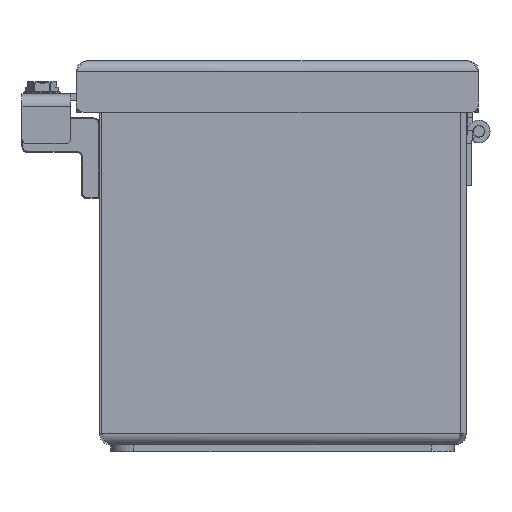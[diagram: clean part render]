
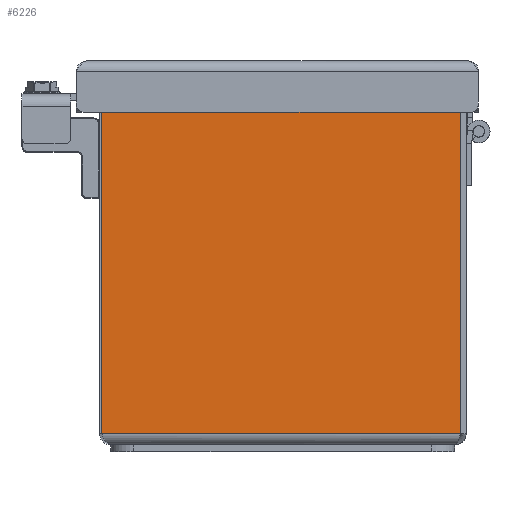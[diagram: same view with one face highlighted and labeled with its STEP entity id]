
A CAD part, left-side view. The second image highlights one B-rep face of the part: STEP entity #6226.
In plain terms, the highlighted planar face has unit normal (-1, 0, 0).
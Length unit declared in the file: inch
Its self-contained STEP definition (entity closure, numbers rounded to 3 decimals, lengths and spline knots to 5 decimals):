
#374=DIRECTION('',(0.,-1.,0.));
#375=VECTOR('',#374,3.918);
#376=CARTESIAN_POINT('',(0.,3.978,0.12));
#377=LINE('',#376,#375);
#1851=CARTESIAN_POINT('',(0.,0.112,3.888));
#1852=DIRECTION('',(-1.,0.,0.));
#1853=DIRECTION('',(0.,-1.,0.));
#1854=AXIS2_PLACEMENT_3D('',#1851,#1852,#1853);
#1859=DIRECTION('',(0.,0.,1.));
#1860=VECTOR('',#1859,3.768);
#1861=CARTESIAN_POINT('',(0.,3.978,0.12));
#1862=LINE('',#1861,#1860);
#1866=DIRECTION('',(0.,0.,1.));
#1867=VECTOR('',#1866,0.052);
#1868=CARTESIAN_POINT('',(0.,0.35,3.888));
#1869=LINE('',#1868,#1867);
#1873=DIRECTION('',(0.,1.,0.));
#1874=VECTOR('',#1873,0.238);
#1875=CARTESIAN_POINT('',(0.,0.112,3.94));
#1876=LINE('',#1875,#1874);
#1894=DIRECTION('',(0.,0.,1.));
#1895=VECTOR('',#1894,3.768);
#1896=CARTESIAN_POINT('',(0.,0.06,0.12));
#1897=LINE('',#1896,#1895);
#1930=DIRECTION('',(0.,-1.,0.));
#1931=VECTOR('',#1930,3.628);
#1932=CARTESIAN_POINT('',(0.,3.978,3.888));
#1933=LINE('',#1932,#1931);
#3317=CARTESIAN_POINT('',(0.,0.06,0.12));
#3319=VERTEX_POINT('',#3317);
#3337=CARTESIAN_POINT('',(0.,3.978,0.12));
#3339=VERTEX_POINT('',#3337);
#3481=CARTESIAN_POINT('',(0.,0.35,3.888));
#3482=VERTEX_POINT('',#3481);
#3483=CARTESIAN_POINT('',(0.,3.978,3.888));
#3484=VERTEX_POINT('',#3483);
#3585=CARTESIAN_POINT('',(0.,0.35,3.94));
#3586=VERTEX_POINT('',#3585);
#3601=CARTESIAN_POINT('',(0.,0.06,3.888));
#3602=CARTESIAN_POINT('',(0.,0.112,3.94));
#3603=VERTEX_POINT('',#3601);
#3604=VERTEX_POINT('',#3602);
#6207=CARTESIAN_POINT('',(0.,4.,0.));
#6208=DIRECTION('',(-1.,0.,0.));
#6209=DIRECTION('',(0.,-1.,0.));
#6210=AXIS2_PLACEMENT_3D('',#6207,#6208,#6209);
#6211=PLANE('',#6210);
#6212=ORIENTED_EDGE('',*,*,#6197,.F.);
#6214=ORIENTED_EDGE('',*,*,#6213,.F.);
#6215=ORIENTED_EDGE('',*,*,#4215,.F.);
#6217=ORIENTED_EDGE('',*,*,#6216,.T.);
#6219=ORIENTED_EDGE('',*,*,#6218,.T.);
#6221=ORIENTED_EDGE('',*,*,#6220,.T.);
#6223=ORIENTED_EDGE('',*,*,#6222,.F.);
#6224=EDGE_LOOP('',(#6212,#6214,#6215,#6217,#6219,#6221,#6223));
#6225=FACE_OUTER_BOUND('',#6224,.F.);
#1855=CIRCLE('',#1854,0.052);
#4215=EDGE_CURVE('',#3339,#3319,#377,.T.);
#6197=EDGE_CURVE('',#3603,#3604,#1855,.T.);
#6213=EDGE_CURVE('',#3319,#3603,#1897,.T.);
#6216=EDGE_CURVE('',#3339,#3484,#1862,.T.);
#6218=EDGE_CURVE('',#3484,#3482,#1933,.T.);
#6220=EDGE_CURVE('',#3482,#3586,#1869,.T.);
#6222=EDGE_CURVE('',#3604,#3586,#1876,.T.);
#6226=ADVANCED_FACE('',(#6225),#6211,.T.);
